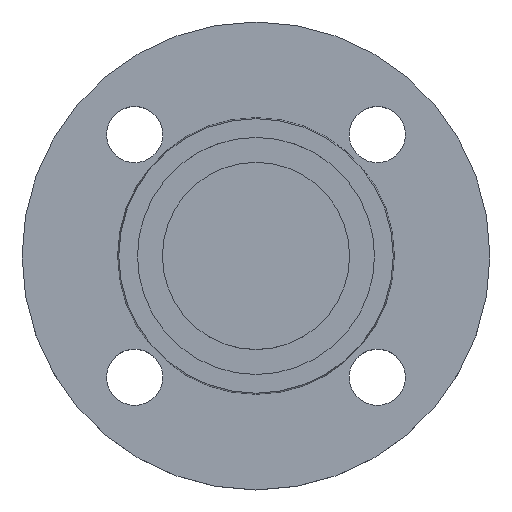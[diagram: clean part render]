
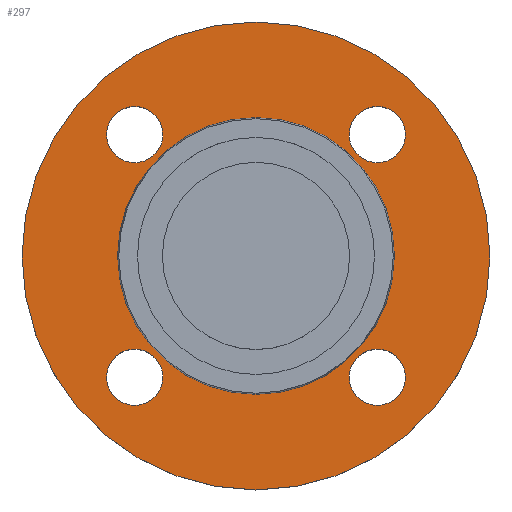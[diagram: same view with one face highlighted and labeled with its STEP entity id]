
A CAD part, top view. The second image highlights one B-rep face of the part: STEP entity #297.
In plain terms, the highlighted planar face has unit normal (0, 0, 1).
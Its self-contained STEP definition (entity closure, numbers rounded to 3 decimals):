
#2 = AXIS2_PLACEMENT_3D ( 'NONE', #676, #426, #665 ) ;
#3 = CIRCLE ( 'NONE', #9, 9. ) ;
#4 = CIRCLE ( 'NONE', #389, 44.353 ) ;
#9 = AXIS2_PLACEMENT_3D ( 'NONE', #503, #505, #507 ) ;
#20 = DIRECTION ( 'NONE',  ( 1., 0., 0. ) ) ;
#32 = EDGE_CURVE ( 'NONE', #237, #260, #243, .T. ) ;
#44 = EDGE_CURVE ( 'NONE', #334, #300, #50, .T. ) ;
#50 = CIRCLE ( 'NONE', #307, 75. ) ;
#62 = CARTESIAN_POINT ( 'NONE',  ( -29.891, 38.891, -2. ) ) ;
#70 = CIRCLE ( 'NONE', #251, 9. ) ;
#79 = CARTESIAN_POINT ( 'NONE',  ( -38.891, 38.891, -2. ) ) ;
#80 = DIRECTION ( 'NONE',  ( 0., 0., -1. ) ) ;
#82 = DIRECTION ( 'NONE',  ( 1., 0., 0. ) ) ;
#84 = CARTESIAN_POINT ( 'NONE',  ( 0., 0., -2. ) ) ;
#85 = DIRECTION ( 'NONE',  ( 0., 0., -1. ) ) ;
#86 = DIRECTION ( 'NONE',  ( -1., 0., 0. ) ) ;
#95 = AXIS2_PLACEMENT_3D ( 'NONE', #487, #488, #489 ) ;
#99 = EDGE_CURVE ( 'NONE', #300, #334, #194, .T. ) ;
#108 = EDGE_CURVE ( 'NONE', #296, #331, #168, .T. ) ;
#110 = CIRCLE ( 'NONE', #624, 44.353 ) ;
#117 = CIRCLE ( 'NONE', #2, 9. ) ;
#120 = DIRECTION ( 'NONE',  ( 1., 0., 0. ) ) ;
#123 = EDGE_CURVE ( 'NONE', #331, #296, #3, .T. ) ;
#130 = DIRECTION ( 'NONE',  ( 0., 0., -1. ) ) ;
#139 = AXIS2_PLACEMENT_3D ( 'NONE', #633, #634, #635 ) ;
#146 = CARTESIAN_POINT ( 'NONE',  ( -38.891, -38.891, -2. ) ) ;
#156 = EDGE_LOOP ( 'NONE', ( #406, #218 ) ) ;
#158 = AXIS2_PLACEMENT_3D ( 'NONE', #500, #501, #502 ) ;
#168 = CIRCLE ( 'NONE', #158, 9. ) ;
#172 = AXIS2_PLACEMENT_3D ( 'NONE', #586, #587, #588 ) ;
#194 = CIRCLE ( 'NONE', #95, 75. ) ;
#207 = EDGE_LOOP ( 'NONE', ( #432, #420 ) ) ;
#216 = AXIS2_PLACEMENT_3D ( 'NONE', #79, #80, #82 ) ;
#217 = CIRCLE ( 'NONE', #216, 9. ) ;
#218 = ORIENTED_EDGE ( 'NONE', *, *, #278, .T. ) ;
#221 = EDGE_CURVE ( 'NONE', #313, #222, #229, .T. ) ;
#222 = VERTEX_POINT ( 'NONE', #589 ) ;
#229 = CIRCLE ( 'NONE', #172, 9. ) ;
#235 = AXIS2_PLACEMENT_3D ( 'NONE', #464, #465, #466 ) ;
#237 = VERTEX_POINT ( 'NONE', #594 ) ;
#239 = VERTEX_POINT ( 'NONE', #596 ) ;
#243 = CIRCLE ( 'NONE', #235, 9. ) ;
#251 = AXIS2_PLACEMENT_3D ( 'NONE', #146, #130, #20 ) ;
#255 = AXIS2_PLACEMENT_3D ( 'NONE', #429, #277, #120 ) ;
#260 = VERTEX_POINT ( 'NONE', #603 ) ;
#277 = DIRECTION ( 'NONE',  ( 0., 0., -1. ) ) ;
#278 = EDGE_CURVE ( 'NONE', #298, #239, #4, .T. ) ;
#296 = VERTEX_POINT ( 'NONE', #625 ) ;
#297 = ADVANCED_FACE ( 'NONE', ( #626, #627, #628, #629, #630, #631 ), #632, .T. ) ;
#298 = VERTEX_POINT ( 'NONE', #636 ) ;
#300 = VERTEX_POINT ( 'NONE', #637 ) ;
#304 = EDGE_LOOP ( 'NONE', ( #437, #436 ) ) ;
#307 = AXIS2_PLACEMENT_3D ( 'NONE', #467, #468, #469 ) ;
#309 = ORIENTED_EDGE ( 'NONE', *, *, #44, .F. ) ;
#313 = VERTEX_POINT ( 'NONE', #647 ) ;
#315 = EDGE_LOOP ( 'NONE', ( #416, #407 ) ) ;
#324 = ORIENTED_EDGE ( 'NONE', *, *, #99, .F. ) ;
#326 = VERTEX_POINT ( 'NONE', #656 ) ;
#331 = VERTEX_POINT ( 'NONE', #657 ) ;
#334 = VERTEX_POINT ( 'NONE', #668 ) ;
#354 = EDGE_CURVE ( 'NONE', #326, #363, #117, .T. ) ;
#357 = EDGE_LOOP ( 'NONE', ( #309, #324 ) ) ;
#363 = VERTEX_POINT ( 'NONE', #62 ) ;
#379 = EDGE_CURVE ( 'NONE', #363, #326, #217, .T. ) ;
#381 = EDGE_CURVE ( 'NONE', #239, #298, #110, .T. ) ;
#382 = EDGE_LOOP ( 'NONE', ( #434, #433 ) ) ;
#389 = AXIS2_PLACEMENT_3D ( 'NONE', #608, #609, #610 ) ;
#406 = ORIENTED_EDGE ( 'NONE', *, *, #381, .T. ) ;
#407 = ORIENTED_EDGE ( 'NONE', *, *, #664, .T. ) ;
#416 = ORIENTED_EDGE ( 'NONE', *, *, #221, .T. ) ;
#419 = CIRCLE ( 'NONE', #255, 9. ) ;
#420 = ORIENTED_EDGE ( 'NONE', *, *, #354, .T. ) ;
#426 = DIRECTION ( 'NONE',  ( 0., 0., -1. ) ) ;
#429 = CARTESIAN_POINT ( 'NONE',  ( 38.891, 38.891, -2. ) ) ;
#432 = ORIENTED_EDGE ( 'NONE', *, *, #379, .T. ) ;
#433 = ORIENTED_EDGE ( 'NONE', *, *, #32, .T. ) ;
#434 = ORIENTED_EDGE ( 'NONE', *, *, #518, .T. ) ;
#436 = ORIENTED_EDGE ( 'NONE', *, *, #123, .T. ) ;
#437 = ORIENTED_EDGE ( 'NONE', *, *, #108, .T. ) ;
#464 = CARTESIAN_POINT ( 'NONE',  ( -38.891, -38.891, -2. ) ) ;
#465 = DIRECTION ( 'NONE',  ( 0., 0., -1. ) ) ;
#466 = DIRECTION ( 'NONE',  ( 1., 0., 0. ) ) ;
#467 = CARTESIAN_POINT ( 'NONE',  ( 0., 0., -2. ) ) ;
#468 = DIRECTION ( 'NONE',  ( 0., 0., -1. ) ) ;
#469 = DIRECTION ( 'NONE',  ( -1., 0., 0. ) ) ;
#487 = CARTESIAN_POINT ( 'NONE',  ( 0., 0., -2. ) ) ;
#488 = DIRECTION ( 'NONE',  ( 0., 0., -1. ) ) ;
#489 = DIRECTION ( 'NONE',  ( -1., 0., 0. ) ) ;
#500 = CARTESIAN_POINT ( 'NONE',  ( 38.891, -38.891, -2. ) ) ;
#501 = DIRECTION ( 'NONE',  ( 0., 0., -1. ) ) ;
#502 = DIRECTION ( 'NONE',  ( 1., 0., 0. ) ) ;
#503 = CARTESIAN_POINT ( 'NONE',  ( 38.891, -38.891, -2. ) ) ;
#505 = DIRECTION ( 'NONE',  ( 0., 0., -1. ) ) ;
#507 = DIRECTION ( 'NONE',  ( 1., 0., 0. ) ) ;
#518 = EDGE_CURVE ( 'NONE', #260, #237, #70, .T. ) ;
#586 = CARTESIAN_POINT ( 'NONE',  ( 38.891, 38.891, -2. ) ) ;
#587 = DIRECTION ( 'NONE',  ( 0., 0., -1. ) ) ;
#588 = DIRECTION ( 'NONE',  ( 1., 0., 0. ) ) ;
#589 = CARTESIAN_POINT ( 'NONE',  ( 29.891, 38.891, -2. ) ) ;
#594 = CARTESIAN_POINT ( 'NONE',  ( -47.891, -38.891, -2. ) ) ;
#596 = CARTESIAN_POINT ( 'NONE',  ( -44.353, 0., -2. ) ) ;
#603 = CARTESIAN_POINT ( 'NONE',  ( -29.891, -38.891, -2. ) ) ;
#608 = CARTESIAN_POINT ( 'NONE',  ( 0., 0., -2. ) ) ;
#609 = DIRECTION ( 'NONE',  ( 0., 0., -1. ) ) ;
#610 = DIRECTION ( 'NONE',  ( -1., 0., 0. ) ) ;
#624 = AXIS2_PLACEMENT_3D ( 'NONE', #84, #85, #86 ) ;
#625 = CARTESIAN_POINT ( 'NONE',  ( 47.891, -38.891, -2. ) ) ;
#626 = FACE_BOUND ( 'NONE', #304, .T. ) ;
#627 = FACE_BOUND ( 'NONE', #382, .T. ) ;
#628 = FACE_BOUND ( 'NONE', #207, .T. ) ;
#629 = FACE_BOUND ( 'NONE', #315, .T. ) ;
#630 = FACE_BOUND ( 'NONE', #156, .T. ) ;
#631 = FACE_OUTER_BOUND ( 'NONE', #357, .T. ) ;
#632 = PLANE ( 'NONE',  #139 ) ;
#633 = CARTESIAN_POINT ( 'NONE',  ( 44.353, 0., -2. ) ) ;
#634 = DIRECTION ( 'NONE',  ( 0., 0., 1. ) ) ;
#635 = DIRECTION ( 'NONE',  ( 1., 0., 0. ) ) ;
#636 = CARTESIAN_POINT ( 'NONE',  ( 44.353, 0., -2. ) ) ;
#637 = CARTESIAN_POINT ( 'NONE',  ( -75., 0., -2. ) ) ;
#647 = CARTESIAN_POINT ( 'NONE',  ( 47.891, 38.891, -2. ) ) ;
#656 = CARTESIAN_POINT ( 'NONE',  ( -47.891, 38.891, -2. ) ) ;
#657 = CARTESIAN_POINT ( 'NONE',  ( 29.891, -38.891, -2. ) ) ;
#664 = EDGE_CURVE ( 'NONE', #222, #313, #419, .T. ) ;
#665 = DIRECTION ( 'NONE',  ( 1., 0., 0. ) ) ;
#668 = CARTESIAN_POINT ( 'NONE',  ( 75., 0., -2. ) ) ;
#676 = CARTESIAN_POINT ( 'NONE',  ( -38.891, 38.891, -2. ) ) ;
